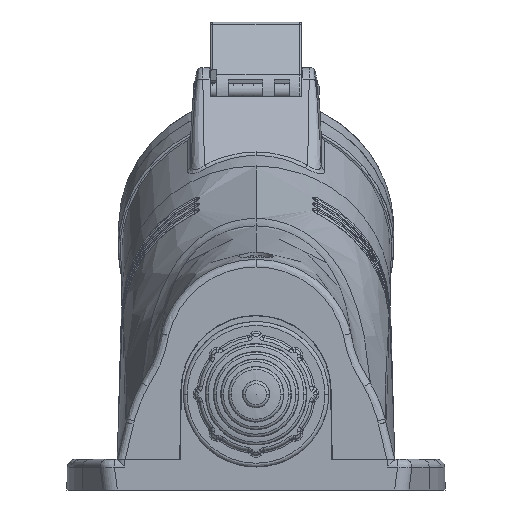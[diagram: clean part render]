
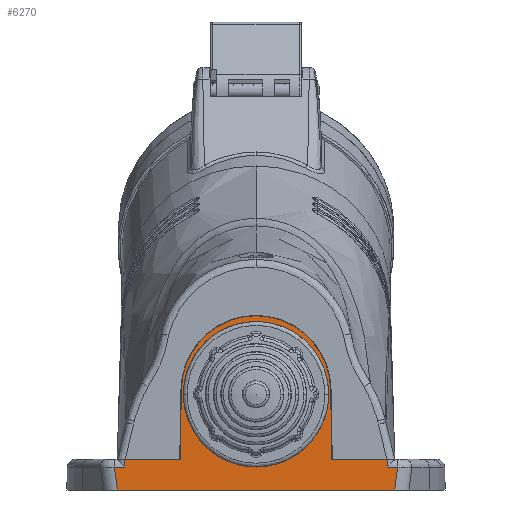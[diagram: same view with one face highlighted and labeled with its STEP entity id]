
A CAD part, front view. The second image highlights one B-rep face of the part: STEP entity #6270.
In plain terms, the highlighted planar face has unit normal (0, -1, 0).
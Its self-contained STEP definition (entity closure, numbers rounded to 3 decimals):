
#471=FACE_BOUND('',#10522,.T.);
#472=FACE_BOUND('',#10523,.T.);
#1237=CIRCLE('',#31090,19.5);
#1238=CIRCLE('',#31091,16.25);
#2515=LINE('',#45207,#4105);
#2529=LINE('',#45259,#4119);
#2535=LINE('',#45273,#4125);
#2702=LINE('',#46670,#4292);
#2831=LINE('',#48310,#4421);
#2832=LINE('',#48312,#4422);
#2833=LINE('',#48314,#4423);
#2834=LINE('',#48315,#4424);
#2835=LINE('',#48317,#4425);
#2836=LINE('',#48319,#4426);
#2837=LINE('',#48320,#4427);
#4105=VECTOR('',#33392,1.);
#4119=VECTOR('',#33430,1.);
#4125=VECTOR('',#33440,1.);
#4292=VECTOR('',#33743,1.);
#4421=VECTOR('',#34130,1.);
#4422=VECTOR('',#34131,1.);
#4423=VECTOR('',#34132,1.);
#4424=VECTOR('',#34133,1.);
#4425=VECTOR('',#34134,1.);
#4426=VECTOR('',#34135,1.);
#4427=VECTOR('',#34136,1.);
#6270=ADVANCED_FACE('',(#471,#472),#8117,.T.);
#8117=PLANE('',#31092);
#10522=EDGE_LOOP('',(#13356,#13357,#13358,#13359,#13360,#13361,#13362,#13363,
#13364,#13365,#13366,#13367));
#10523=EDGE_LOOP('',(#13368));
#13356=ORIENTED_EDGE('',*,*,#24711,.F.);
#13357=ORIENTED_EDGE('',*,*,#24704,.F.);
#13358=ORIENTED_EDGE('',*,*,#25270,.F.);
#13359=ORIENTED_EDGE('',*,*,#25271,.T.);
#13360=ORIENTED_EDGE('',*,*,#25272,.T.);
#13361=ORIENTED_EDGE('',*,*,#24988,.T.);
#13362=ORIENTED_EDGE('',*,*,#25273,.T.);
#13363=ORIENTED_EDGE('',*,*,#25274,.T.);
#13364=ORIENTED_EDGE('',*,*,#25275,.T.);
#13365=ORIENTED_EDGE('',*,*,#24678,.F.);
#13366=ORIENTED_EDGE('',*,*,#25276,.F.);
#13367=ORIENTED_EDGE('',*,*,#25277,.F.);
#13368=ORIENTED_EDGE('',*,*,#25278,.T.);
#21821=VERTEX_POINT('',#45206);
#21822=VERTEX_POINT('',#45208);
#21847=VERTEX_POINT('',#45258);
#21848=VERTEX_POINT('',#45260);
#21854=VERTEX_POINT('',#45274);
#22118=VERTEX_POINT('',#46669);
#22119=VERTEX_POINT('',#46671);
#22352=VERTEX_POINT('',#48311);
#22353=VERTEX_POINT('',#48313);
#22354=VERTEX_POINT('',#48316);
#22355=VERTEX_POINT('',#48318);
#22356=VERTEX_POINT('',#48321);
#22357=VERTEX_POINT('',#48324);
#24678=EDGE_CURVE('',#21821,#21822,#2515,.T.);
#24704=EDGE_CURVE('',#21847,#21848,#2529,.T.);
#24711=EDGE_CURVE('',#21848,#21854,#2535,.T.);
#24988=EDGE_CURVE('',#22119,#22118,#2702,.T.);
#25270=EDGE_CURVE('',#22352,#21847,#2831,.T.);
#25271=EDGE_CURVE('',#22352,#22353,#2832,.T.);
#25272=EDGE_CURVE('',#22353,#22119,#2833,.T.);
#25273=EDGE_CURVE('',#22118,#22354,#2834,.T.);
#25274=EDGE_CURVE('',#22354,#22355,#2835,.T.);
#25275=EDGE_CURVE('',#22355,#21822,#2836,.T.);
#25276=EDGE_CURVE('',#22356,#21821,#2837,.T.);
#25277=EDGE_CURVE('',#21854,#22356,#1237,.T.);
#25278=EDGE_CURVE('',#22357,#22357,#1238,.T.);
#31090=AXIS2_PLACEMENT_3D('',#48322,#34137,#34138);
#31091=AXIS2_PLACEMENT_3D('',#48323,#34139,#34140);
#31092=AXIS2_PLACEMENT_3D('',#48325,#34141,#34142);
#33392=DIRECTION('',(1.,0.,0.));
#33430=DIRECTION('',(1.,0.,0.));
#33440=DIRECTION('',(0.017,0.,1.));
#33743=DIRECTION('',(1.,0.,0.));
#34130=DIRECTION('',(0.,0.,1.));
#34131=DIRECTION('',(-1.,0.,0.));
#34132=DIRECTION('',(0.126,0.,-0.992));
#34133=DIRECTION('',(0.126,0.,0.992));
#34134=DIRECTION('',(-1.,0.,0.));
#34135=DIRECTION('',(0.,0.,1.));
#34136=DIRECTION('',(0.017,0.,-1.));
#34137=DIRECTION('',(0.,1.,0.));
#34138=DIRECTION('',(1.,0.,0.));
#34139=DIRECTION('',(0.,1.,0.));
#34140=DIRECTION('',(0.,0.,1.));
#34141=DIRECTION('',(0.,-1.,0.));
#34142=DIRECTION('',(0.,0.,-1.));
#45206=CARTESIAN_POINT('',(19.817,-69.,0.));
#45207=CARTESIAN_POINT('',(-34.25,-69.,0.));
#45208=CARTESIAN_POINT('',(34.25,-69.,0.));
#45258=CARTESIAN_POINT('',(-34.25,-69.,0.));
#45259=CARTESIAN_POINT('',(-34.25,-69.,0.));
#45260=CARTESIAN_POINT('',(-19.817,-69.,0.));
#45273=CARTESIAN_POINT('',(-19.957,-69.,-8.));
#45274=CARTESIAN_POINT('',(-19.497,-69.,18.34));
#46669=CARTESIAN_POINT('',(36.215,-69.,-8.));
#46670=CARTESIAN_POINT('',(-39.957,-69.,-8.));
#46671=CARTESIAN_POINT('',(-36.215,-69.,-8.));
#48310=CARTESIAN_POINT('',(-34.25,-69.,-8.8));
#48311=CARTESIAN_POINT('',(-34.25,-69.,-2.));
#48312=CARTESIAN_POINT('',(-39.957,-69.,-2.));
#48313=CARTESIAN_POINT('',(-36.976,-69.,-2.));
#48314=CARTESIAN_POINT('',(-36.274,-69.,-7.533));
#48315=CARTESIAN_POINT('',(35.008,-69.,-17.512));
#48316=CARTESIAN_POINT('',(36.976,-69.,-2.));
#48317=CARTESIAN_POINT('',(-39.957,-69.,-2.));
#48318=CARTESIAN_POINT('',(34.25,-69.,-2.));
#48319=CARTESIAN_POINT('',(34.25,-69.,-8.8));
#48320=CARTESIAN_POINT('',(19.497,-69.,18.34));
#48321=CARTESIAN_POINT('',(19.497,-69.,18.34));
#48322=CARTESIAN_POINT('',(0.,-69.,18.));
#48323=CARTESIAN_POINT('',(0.,-69.,17.));
#48324=CARTESIAN_POINT('',(0.,-69.,33.25));
#48325=CARTESIAN_POINT('',(-39.957,-69.,-8.));
